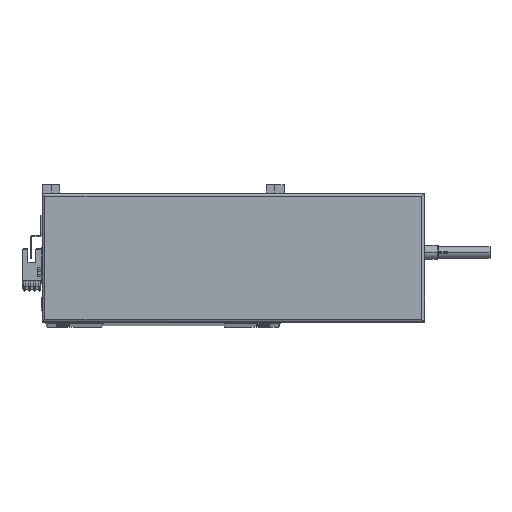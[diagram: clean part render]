
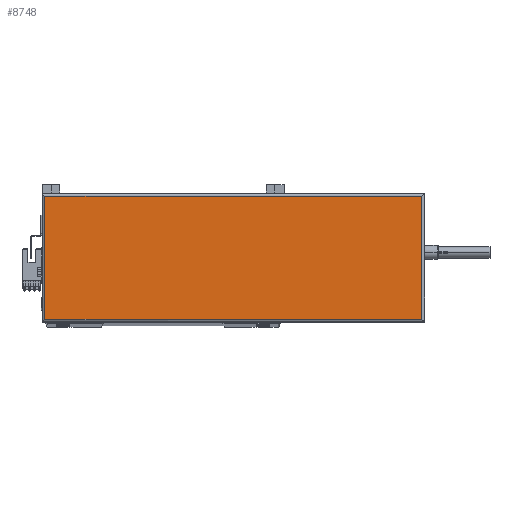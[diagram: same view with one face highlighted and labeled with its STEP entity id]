
A CAD part, top view. The second image highlights one B-rep face of the part: STEP entity #8748.
In plain terms, the highlighted planar face has unit normal (0, 0, 1).
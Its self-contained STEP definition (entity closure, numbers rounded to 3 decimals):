
#1742 = ORIENTED_EDGE ( 'NONE', *, *, #5828, .T. ) ;
#2264 = LINE ( 'NONE', #2600, #25324 ) ;
#2600 = CARTESIAN_POINT ( 'NONE',  ( 265., 90., 44.8 ) ) ;
#4059 = DIRECTION ( 'NONE',  ( 0., -1., 0. ) ) ;
#4301 = ORIENTED_EDGE ( 'NONE', *, *, #36589, .T. ) ;
#5496 = DIRECTION ( 'NONE',  ( 1., 0., 0. ) ) ;
#5625 = VERTEX_POINT ( 'NONE', #12276 ) ;
#5828 = EDGE_CURVE ( 'NONE', #5625, #13990, #14644, .T. ) ;
#6032 = DIRECTION ( 'NONE',  ( 0., 1., 0. ) ) ;
#7272 = CARTESIAN_POINT ( 'NONE',  ( 265., 2., 44.8 ) ) ;
#8362 = VERTEX_POINT ( 'NONE', #21580 ) ;
#8748 = ADVANCED_FACE ( 'NONE', ( #25957 ), #13846, .T. ) ;
#11291 = AXIS2_PLACEMENT_3D ( 'NONE', #14195, #42995, #26208 ) ;
#12276 = CARTESIAN_POINT ( 'NONE',  ( 2., 2., 44.8 ) ) ;
#13846 = PLANE ( 'NONE',  #11291 ) ;
#13990 = VERTEX_POINT ( 'NONE', #7272 ) ;
#14195 = CARTESIAN_POINT ( 'NONE',  ( 133.5, 45., 44.8 ) ) ;
#14644 = LINE ( 'NONE', #30731, #48754 ) ;
#15106 = LINE ( 'NONE', #44846, #20845 ) ;
#16622 = EDGE_LOOP ( 'NONE', ( #45050, #43957, #4301, #1742 ) ) ;
#18450 = EDGE_CURVE ( 'NONE', #13990, #8362, #2264, .T. ) ;
#20845 = VECTOR ( 'NONE', #4059, 1000. ) ;
#21060 = EDGE_CURVE ( 'NONE', #8362, #24936, #47294, .T. ) ;
#21180 = DIRECTION ( 'NONE',  ( -1., 0., 0. ) ) ;
#21580 = CARTESIAN_POINT ( 'NONE',  ( 265., 88., 44.8 ) ) ;
#24936 = VERTEX_POINT ( 'NONE', #51032 ) ;
#25324 = VECTOR ( 'NONE', #6032, 1000. ) ;
#25957 = FACE_OUTER_BOUND ( 'NONE', #16622, .T. ) ;
#26208 = DIRECTION ( 'NONE',  ( 1., 0., 0. ) ) ;
#30731 = CARTESIAN_POINT ( 'NONE',  ( 267., 2., 44.8 ) ) ;
#36589 = EDGE_CURVE ( 'NONE', #24936, #5625, #15106, .T. ) ;
#38243 = VECTOR ( 'NONE', #21180, 1000. ) ;
#42287 = CARTESIAN_POINT ( 'NONE',  ( 0., 88., 44.8 ) ) ;
#42995 = DIRECTION ( 'NONE',  ( 0., 0., 1. ) ) ;
#43957 = ORIENTED_EDGE ( 'NONE', *, *, #21060, .T. ) ;
#44846 = CARTESIAN_POINT ( 'NONE',  ( 2., 0., 44.8 ) ) ;
#45050 = ORIENTED_EDGE ( 'NONE', *, *, #18450, .T. ) ;
#47294 = LINE ( 'NONE', #42287, #38243 ) ;
#48754 = VECTOR ( 'NONE', #5496, 1000. ) ;
#51032 = CARTESIAN_POINT ( 'NONE',  ( 2., 88., 44.8 ) ) ;
